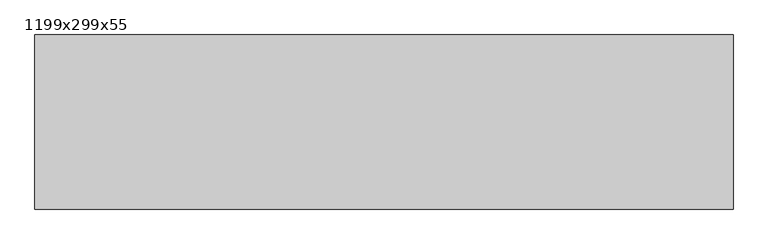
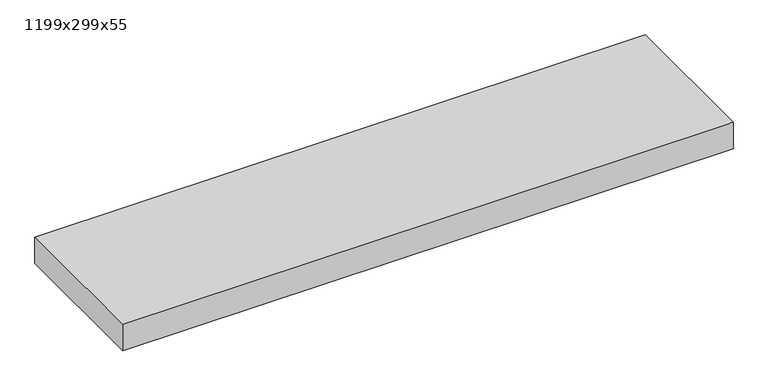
"""IFC4 building model written with IfcOpenShell, lengths in millimetres: proxy geometry, Texaa Panneaux Stereo fixés contre support par système magnétique séparés ou groupés au mur : 1199x299x55."""

from ifc_helpers import new_model, si_unit, frame, origin, place, context, project, spatial, polyline, outline, extrude, faceted_brep, source, transform, mapped, element, save


def proxy_1199x299x55_324788b6(model_context):
    return source(origin(), model_context, "Body", "SolidModel", [
        extrude(outline(polyline([(-598.5, 148.5), (598.5, 148.5), (598.5, -148.5), (-598.5, -148.5), (-598.5, 148.5)])), frame((0.0, 0.0, 11.0), z_axis=(0.0, 0.0, 1.0), x_axis=(1.0, 0.0, 0.0)), (0.0, 0.0, 1.0), 53.0),
        faceted_brep([(599.5, -149.5, 65.0), (599.5, 149.5, 65.0), (-599.5, 149.5, 65.0), (-599.5, 148.4693751, 65.0), (-599.5, 147.4387503, 65.0), (-599.5, 97.9687563, 65.0), (-599.5, -149.5, 65.0), (392.8579893, -149.5, 65.0), (591.2343196, -149.5, 65.0), (595.3671598, -149.5, 65.0), (-599.5, 149.5, 10.0), (599.5, 149.5, 10.0), (599.5, -149.5, 10.0), (-599.5, -149.5, 10.0), (-549.5, -99.5, 10.0), (549.5, -99.5, 10.0), (549.5, 99.5, 10.0), (-549.5, 99.5, 10.0), (-599.5, 149.5, 64.0), (599.5, -149.5, 64.0), (-549.5, -99.5, 11.0), (549.5, -99.5, 11.0), (549.5, 99.5, 11.0), (-549.5, 99.5, 11.0), (598.5, 148.5, 64.0), (598.5, -148.5, 64.0), (595.4899666, -148.5, 64.0), (591.3571263, -148.5, 64.0), (587.2242861, -148.5, 64.0), (388.8479559, -148.5, 64.0), (-598.5, -148.5, 64.0), (-598.5, 97.7193818, 64.0), (-598.5, 147.1893758, 64.0), (-598.5, 148.2200006, 64.0), (-598.5, 148.5, 64.0), (-595.4899666, 148.5, 64.0), (-598.5, 148.5, 11.0), (-598.5, -148.5, 11.0), (598.5, -148.5, 11.0), (598.5, 148.5, 11.0)], [[[0, 1, 2, 3, 4, 5, 6, 7, 8, 9]], [[10, 11, 12, 13], [14, 15, 16, 17]], [[10, 13, 6, 5, 4, 3, 2, 18]], [[13, 12, 19, 0, 9, 8, 7, 6]], [[1, 0, 19, 12, 11]], [[2, 1, 11, 10, 18]], [[14, 20, 21, 15]], [[15, 21, 22, 16]], [[16, 22, 23, 17]], [[20, 14, 17, 23]], [[24, 25, 26, 27, 28, 29, 30, 31, 32, 33, 34, 35]], [[36, 37, 38, 39], [21, 20, 23, 22]], [[37, 36, 34, 33, 32, 31, 30]], [[38, 37, 30, 29, 28, 27, 26, 25]], [[25, 24, 39, 38]], [[36, 39, 24, 35, 34]]]),
    ])


if __name__ == "__main__":
    model = new_model("IFC4")
    model_context = context("Model", 3, world=origin())
    ifc_project = project(units=[si_unit("LENGTHUNIT", "METRE", prefix="MILLI")], contexts=[model_context])
    site = spatial("IfcSite", under=ifc_project)
    building = spatial("IfcBuilding", under=site)
    placement = place(None, origin())
    proxy_1199x299x55_shape = proxy_1199x299x55_324788b6(model_context)
    element("IfcBuildingElementProxy", 1, Name="Texaa Panneaux Stereo fixés contre support par système magnétique séparés ou groupés au mur : 1199x299x55", ObjectType="Texaa Panneaux Stereo fixés contre support par système magnétique séparés ou groupés au mur : 1199x299x55", at=placement, inside=building, context=model_context, shape_type="MappedRepresentation", body=[
        mapped(proxy_1199x299x55_shape, transform((0.0, 0.0, 0.0), x_axis=(1.0, 0.0, 0.0), y_axis=(0.0, 1.0, 0.0), z_axis=(0.0, 0.0, 1.0))),
    ])
    save(model, "model.ifc")
